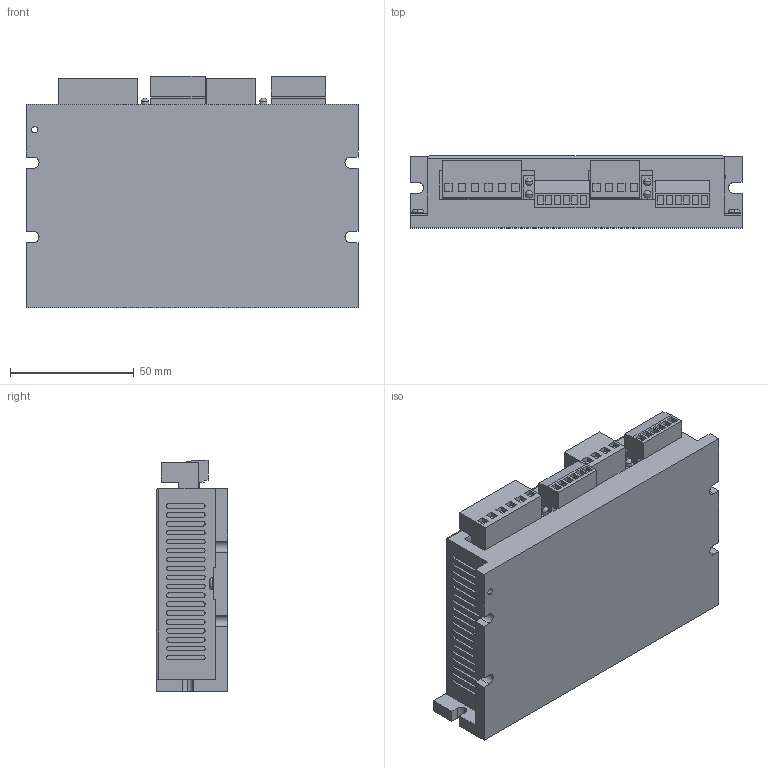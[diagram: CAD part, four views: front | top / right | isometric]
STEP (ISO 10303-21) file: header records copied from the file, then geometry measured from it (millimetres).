
FILE_DESCRIPTION (( 'STEP AP203' ), '1' );
FILE_NAME ('R60?2.STEP', '2023-10-30T09:13:10', ( '' ), ( '' ), 'SwSTEP 2.0', 'SolidWorks 2020', '' );
FILE_SCHEMA (( 'CONFIG_CONTROL_DESIGN' ));
Length unit declared in the file: millimetre
Products named in the file (1): R60?2
Bounding box: 134 x 29 x 93.3 mm (x, y, z)
Volume: 301412.9 mm3; surface area: 42429 mm2
Topology: 1 solids, 1 shells, 461 faces, 1132 edges, 747 vertices
Faces by surface type: plane 345, cylinder 104, sphere 8, torus 4
Entity records: 13451 total; most frequent: CARTESIAN_POINT 2323, DIRECTION 2258, ORIENTED_EDGE 2232, EDGE_CURVE 1116, LINE 894, VECTOR 894, VERTEX_POINT 739, AXIS2_PLACEMENT_3D 682
